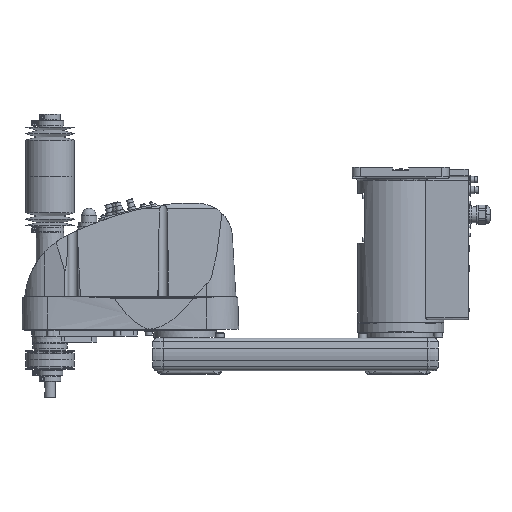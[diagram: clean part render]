
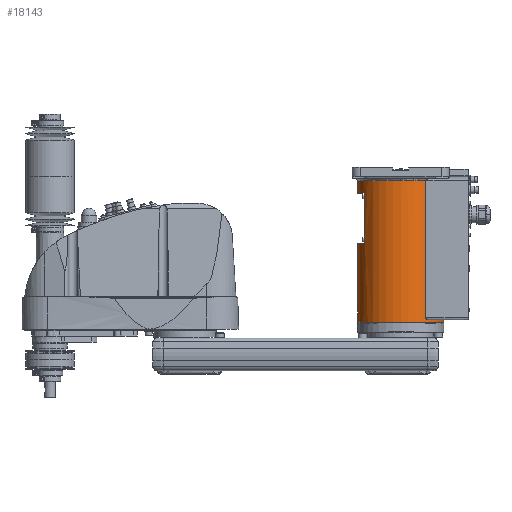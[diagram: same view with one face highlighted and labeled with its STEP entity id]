
A CAD part, top view. The second image highlights one B-rep face of the part: STEP entity #18143.
In plain terms, the highlighted cylindrical face has radius 80 mm (diameter 160 mm), a partial arc.
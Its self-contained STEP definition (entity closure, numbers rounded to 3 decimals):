
#9539 = EDGE_CURVE( '', #25619, #19889, #27571, .T. );
#9979 = VERTEX_POINT( '', #28076 );
#10763 = VERTEX_POINT( '', #28964 );
#11153 = VERTEX_POINT( '', #29401 );
#11597 = EDGE_CURVE( '', #19889, #26377, #29885, .T. );
#12065 = EDGE_CURVE( '', #9979, #23045, #30417, .T. );
#12067 = EDGE_CURVE( '', #11153, #9979, #30419, .T. );
#13033 = VERTEX_POINT( '', #31480 );
#14167 = EDGE_CURVE( '', #13033, #23869, #32774, .T. );
#14261 = VERTEX_POINT( '', #32882 );
#15577 = EDGE_CURVE( '', #23869, #10763, #34344, .T. );
#16231 = EDGE_CURVE( '', #20881, #25619, #35080, .T. );
#17889 = EDGE_CURVE( '', #14261, #10763, #36906, .T. );
#18143 = ADVANCED_FACE( '', ( #37188 ), #37189, .T. );
#19551 = EDGE_CURVE( '', #26377, #22331, #38762, .T. );
#19889 = VERTEX_POINT( '', #39135 );
#20547 = EDGE_CURVE( '', #22331, #14261, #39879, .T. );
#20881 = VERTEX_POINT( '', #40254 );
#21437 = EDGE_CURVE( '', #13033, #11153, #40881, .T. );
#22331 = VERTEX_POINT( '', #41877 );
#23045 = VERTEX_POINT( '', #42659 );
#23869 = VERTEX_POINT( '', #43583 );
#25221 = EDGE_CURVE( '', #23045, #20881, #45089, .T. );
#25619 = VERTEX_POINT( '', #45532 );
#26377 = VERTEX_POINT( '', #46367 );
#27571 = CIRCLE( '', #47964, 80. );
#28076 = CARTESIAN_POINT( '', ( -66., 269., 45.211 ) );
#28964 = CARTESIAN_POINT( '', ( 46.637, 291.5, 65. ) );
#29401 = CARTESIAN_POINT( '', ( -80., 269., 0. ) );
#29885 = LINE( '', #51589, #51590 );
#30417 = LINE( '', #52480, #52481 );
#30419 = CIRCLE( '', #52484, 80. );
#31480 = CARTESIAN_POINT( '', ( -80., 291.5, 0. ) );
#32774 = CIRCLE( '', #56178, 80. );
#32882 = CARTESIAN_POINT( '', ( 46.637, 37.5, 65. ) );
#34344 = CIRCLE( '', #58540, 80. );
#35080 = LINE( '', #59707, #59708 );
#36906 = LINE( '', #62427, #62428 );
#37188 = FACE_OUTER_BOUND( '', #62900, .T. );
#37189 = CYLINDRICAL_SURFACE( '', #62901, 80. );
#38762 = CIRCLE( '', #65132, 80. );
#39135 = CARTESIAN_POINT( '', ( 80., 30., 0. ) );
#39879 = B_SPLINE_CURVE_WITH_KNOTS( '', 3, ( #66920, #66921, #66922, #66923, #66924, #66925, #66926, #66927, #66928, #66929, #66930, #66931, #66932, #66933, #66934, #66935 ), .UNSPECIFIED., .F., .F., ( 4, 2, 2, 2, 2, 2, 2, 4 ), ( -6.06, -5.11, -4.16, -2.26, -1.695, -1.13, -0.565, 0. ), .UNSPECIFIED. );
#40254 = CARTESIAN_POINT( '', ( -80., 176., 0. ) );
#40881 = LINE( '', #68386, #68387 );
#41877 = CARTESIAN_POINT( '', ( 50.557, 34.5, 62. ) );
#42659 = CARTESIAN_POINT( '', ( -66., 176., 45.211 ) );
#43583 = CARTESIAN_POINT( '', ( 0., 291.5, 80. ) );
#45089 = CIRCLE( '', #74800, 80. );
#45532 = CARTESIAN_POINT( '', ( -80., 30., 0. ) );
#46367 = CARTESIAN_POINT( '', ( 80., 34.5, 0. ) );
#47964 = AXIS2_PLACEMENT_3D( '', #78645, #78646, #78647 );
#51589 = CARTESIAN_POINT( '', ( 80., 160.75, 0. ) );
#51590 = VECTOR( '', #81420, 1. );
#52480 = CARTESIAN_POINT( '', ( -66., 222.5, 45.211 ) );
#52481 = VECTOR( '', #82095, 1. );
#52484 = AXIS2_PLACEMENT_3D( '', #82096, #82097, #82098 );
#56178 = AXIS2_PLACEMENT_3D( '', #84832, #84833, #84834 );
#58540 = AXIS2_PLACEMENT_3D( '', #86623, #86624, #86625 );
#59707 = CARTESIAN_POINT( '', ( -80., 160.75, 0. ) );
#59708 = VECTOR( '', #87468, 1. );
#62427 = CARTESIAN_POINT( '', ( 46.637, 164.5, 65. ) );
#62428 = VECTOR( '', #89506, 1. );
#62900 = EDGE_LOOP( '', ( #89801, #89802, #89803, #89804, #89805, #89806, #89807, #89808, #89809, #89810, #89811, #89812 ) );
#62901 = AXIS2_PLACEMENT_3D( '', #89813, #89814, #89815 );
#65132 = AXIS2_PLACEMENT_3D( '', #91639, #91640, #91641 );
#66920 = CARTESIAN_POINT( '', ( 50.557, 34.5, 62. ) );
#66921 = CARTESIAN_POINT( '', ( 50.312, 34.5, 62.2 ) );
#66922 = CARTESIAN_POINT( '', ( 50.054, 34.52, 62.407 ) );
#66923 = CARTESIAN_POINT( '', ( 49.533, 34.607, 62.822 ) );
#66924 = CARTESIAN_POINT( '', ( 49.269, 34.674, 63.029 ) );
#66925 = CARTESIAN_POINT( '', ( 48.491, 34.945, 63.632 ) );
#66926 = CARTESIAN_POINT( '', ( 47.991, 35.221, 64.009 ) );
#66927 = CARTESIAN_POINT( '', ( 47.455, 35.701, 64.405 ) );
#66928 = CARTESIAN_POINT( '', ( 47.333, 35.827, 64.495 ) );
#66929 = CARTESIAN_POINT( '', ( 47.106, 36.105, 64.661 ) );
#66930 = CARTESIAN_POINT( '', ( 47.002, 36.258, 64.736 ) );
#66931 = CARTESIAN_POINT( '', ( 46.828, 36.585, 64.863 ) );
#66932 = CARTESIAN_POINT( '', ( 46.758, 36.761, 64.913 ) );
#66933 = CARTESIAN_POINT( '', ( 46.662, 37.124, 64.982 ) );
#66934 = CARTESIAN_POINT( '', ( 46.637, 37.312, 65. ) );
#66935 = CARTESIAN_POINT( '', ( 46.637, 37.5, 65. ) );
#68386 = CARTESIAN_POINT( '', ( -80., 160.75, 0. ) );
#68387 = VECTOR( '', #94228, 1. );
#74800 = AXIS2_PLACEMENT_3D( '', #99004, #99005, #99006 );
#78645 = CARTESIAN_POINT( '', ( 0., 30., 0. ) );
#78646 = DIRECTION( '', ( 0., 1., 0. ) );
#78647 = DIRECTION( '', ( 1., 0., 0. ) );
#81420 = DIRECTION( '', ( 0., 1., 0. ) );
#82095 = DIRECTION( '', ( 0., -1., 0. ) );
#82096 = CARTESIAN_POINT( '', ( 0., 269., 0. ) );
#82097 = DIRECTION( '', ( 0., 1., 0. ) );
#82098 = DIRECTION( '', ( 1., 0., 0. ) );
#84832 = CARTESIAN_POINT( '', ( 0., 291.5, 0. ) );
#84833 = DIRECTION( '', ( 0., 1., 0. ) );
#84834 = DIRECTION( '', ( 1., 0., 0. ) );
#86623 = CARTESIAN_POINT( '', ( 0., 291.5, 0. ) );
#86624 = DIRECTION( '', ( 0., 1., 0. ) );
#86625 = DIRECTION( '', ( 1., 0., 0. ) );
#87468 = DIRECTION( '', ( 0., -1., 0. ) );
#89506 = DIRECTION( '', ( 0., 1., 0. ) );
#89801 = ORIENTED_EDGE( '', *, *, #11597, .T. );
#89802 = ORIENTED_EDGE( '', *, *, #19551, .T. );
#89803 = ORIENTED_EDGE( '', *, *, #20547, .T. );
#89804 = ORIENTED_EDGE( '', *, *, #17889, .T. );
#89805 = ORIENTED_EDGE( '', *, *, #15577, .F. );
#89806 = ORIENTED_EDGE( '', *, *, #14167, .F. );
#89807 = ORIENTED_EDGE( '', *, *, #21437, .T. );
#89808 = ORIENTED_EDGE( '', *, *, #12067, .T. );
#89809 = ORIENTED_EDGE( '', *, *, #12065, .T. );
#89810 = ORIENTED_EDGE( '', *, *, #25221, .T. );
#89811 = ORIENTED_EDGE( '', *, *, #16231, .T. );
#89812 = ORIENTED_EDGE( '', *, *, #9539, .T. );
#89813 = CARTESIAN_POINT( '', ( 0., 160.75, 0. ) );
#89814 = DIRECTION( '', ( 0., -1., 0. ) );
#89815 = DIRECTION( '', ( 1., 0., 0. ) );
#91639 = CARTESIAN_POINT( '', ( 0., 34.5, 0. ) );
#91640 = DIRECTION( '', ( 0., -1., 0. ) );
#91641 = DIRECTION( '', ( 1., 0., 0. ) );
#94228 = DIRECTION( '', ( 0., -1., 0. ) );
#99004 = CARTESIAN_POINT( '', ( 0., 176., 0. ) );
#99005 = DIRECTION( '', ( 0., -1., 0. ) );
#99006 = DIRECTION( '', ( 1., 0., 0. ) );
